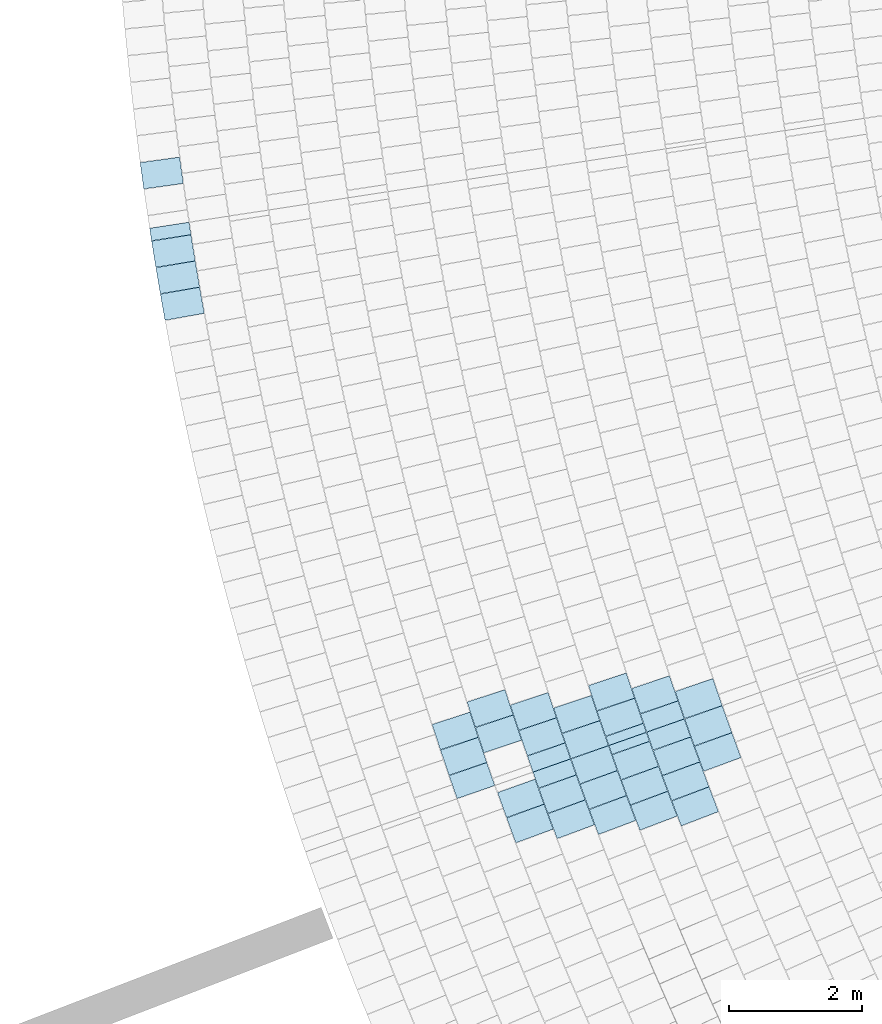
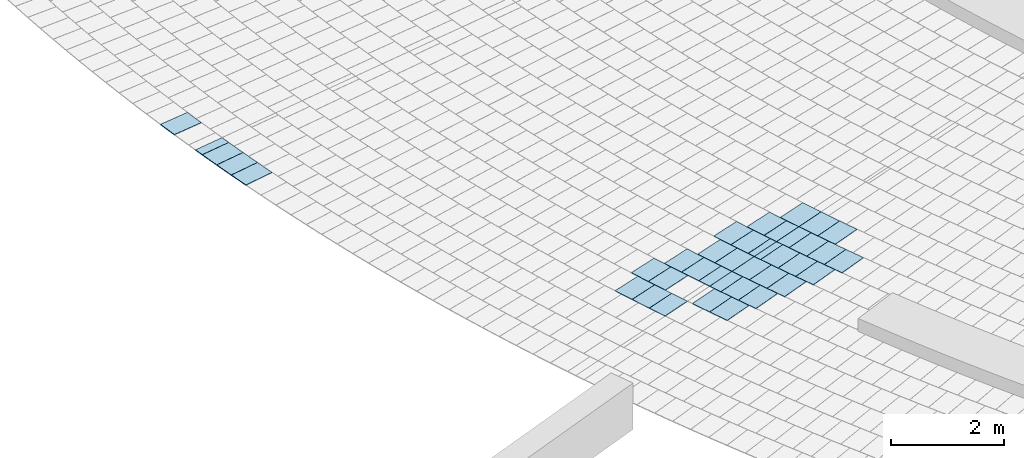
# One storey, part 70 of 438: 39 slabs.
"""IFC2X3 building model written with IfcOpenShell, lengths in millimetres."""

from ifc_helpers import new_model, entity, si_unit, converted_unit, derived_unit, direction, frame, frame_2d, origin, place, context, subcontext, project, spatial, polyline, rectangle, outline, extrude, material, layer, layer_set, layer_usage, type_object, element, save


model = new_model("IFC2X3")

# Units and contexts
model_context = context("Model", 3, precision=0.01, world=origin(), true_north=direction((6.123031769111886e-17, 1.0)))
body_context = subcontext(model_context, "Body", "Model", "MODEL_VIEW")
ifc_project = project(units=[si_unit("LENGTHUNIT", "METRE", prefix="MILLI"), si_unit("AREAUNIT", "SQUARE_METRE"), si_unit("VOLUMEUNIT", "CUBIC_METRE"), converted_unit("PLANEANGLEUNIT", "DEGREE", entity("IfcRatioMeasure", 0.017453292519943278), si_unit("PLANEANGLEUNIT", "RADIAN"), dimensions=[0, 0, 0, 0, 0, 0, 0]), si_unit("MASSUNIT", "GRAM", prefix="KILO"), derived_unit("MASSDENSITYUNIT", [(si_unit("MASSUNIT", "GRAM", prefix="KILO"), 1), (si_unit("LENGTHUNIT", "METRE"), -3)]), derived_unit("MOMENTOFINERTIAUNIT", [(si_unit("LENGTHUNIT", "METRE"), 4)]), si_unit("TIMEUNIT", "SECOND"), si_unit("FREQUENCYUNIT", "HERTZ"), si_unit("THERMODYNAMICTEMPERATUREUNIT", "DEGREE_CELSIUS"), derived_unit("THERMALTRANSMITTANCEUNIT", [(si_unit("MASSUNIT", "GRAM", prefix="KILO"), 1), (si_unit("THERMODYNAMICTEMPERATUREUNIT", "KELVIN"), -1), (si_unit("TIMEUNIT", "SECOND"), -3)]), derived_unit("THERMALCONDUCTANCEUNIT", [(si_unit("MASSUNIT", "GRAM", prefix="KILO"), 1), (si_unit("LENGTHUNIT", "METRE"), 1), (si_unit("THERMODYNAMICTEMPERATUREUNIT", "KELVIN"), -1), (si_unit("TIMEUNIT", "SECOND"), -3)]), derived_unit("VOLUMETRICFLOWRATEUNIT", [(si_unit("LENGTHUNIT", "METRE"), 3), (si_unit("TIMEUNIT", "SECOND"), -1)]), derived_unit("MASSFLOWRATEUNIT", [(si_unit("MASSUNIT", "GRAM", prefix="KILO"), 1), (si_unit("TIMEUNIT", "SECOND"), -1)]), derived_unit("ROTATIONALFREQUENCYUNIT", [(si_unit("TIMEUNIT", "SECOND"), -1)]), si_unit("ELECTRICCURRENTUNIT", "AMPERE"), si_unit("ELECTRICVOLTAGEUNIT", "VOLT"), si_unit("POWERUNIT", "WATT"), converted_unit("FORCEUNIT", "KIP", entity("IfcRatioMeasure", 2.088543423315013e-05), si_unit("FORCEUNIT", "NEWTON"), dimensions=[1, 1, -2, 0, 0, 0, 0]), si_unit("ILLUMINANCEUNIT", "LUX"), si_unit("LUMINOUSFLUXUNIT", "LUMEN"), si_unit("LUMINOUSINTENSITYUNIT", "CANDELA"), derived_unit("USERDEFINED", [(si_unit("MASSUNIT", "GRAM", prefix="KILO"), -1), (si_unit("LENGTHUNIT", "METRE"), -2), (si_unit("TIMEUNIT", "SECOND"), 3), (si_unit("LUMINOUSFLUXUNIT", "LUMEN"), 1)]), derived_unit("USERDEFINED", [(si_unit("MASSUNIT", "GRAM", prefix="KILO"), 1), (si_unit("LENGTHUNIT", "METRE"), 3), (si_unit("TIMEUNIT", "SECOND"), -3), (si_unit("ELECTRICCURRENTUNIT", "AMPERE"), -2)]), derived_unit("USERDEFINED", [(si_unit("LENGTHUNIT", "METRE"), 2), (si_unit("TIMEUNIT", "SECOND"), -2)]), derived_unit("SOUNDPOWERUNIT", [(si_unit("MASSUNIT", "GRAM", prefix="KILO"), 1), (si_unit("LENGTHUNIT", "METRE"), 2), (si_unit("TIMEUNIT", "SECOND"), -3)]), derived_unit("SOUNDPRESSUREUNIT", [(si_unit("MASSUNIT", "GRAM", prefix="KILO"), 1), (si_unit("LENGTHUNIT", "METRE"), -1), (si_unit("TIMEUNIT", "SECOND"), -2)]), derived_unit("LINEARVELOCITYUNIT", [(si_unit("LENGTHUNIT", "METRE"), 1), (si_unit("TIMEUNIT", "SECOND"), -1)]), si_unit("PRESSUREUNIT", "PASCAL"), derived_unit("USERDEFINED", [(si_unit("LENGTHUNIT", "METRE"), -2), (si_unit("MASSUNIT", "GRAM", prefix="KILO"), 1), (si_unit("TIMEUNIT", "SECOND"), -2)]), derived_unit("LINEARFORCEUNIT", [(si_unit("MASSUNIT", "GRAM", prefix="KILO"), 1), (si_unit("LENGTHUNIT", "METRE"), 1), (si_unit("TIMEUNIT", "SECOND"), -2), (si_unit("LENGTHUNIT", "METRE"), -1)]), derived_unit("PLANARFORCEUNIT", [(si_unit("MASSUNIT", "GRAM", prefix="KILO"), 1), (si_unit("LENGTHUNIT", "METRE"), 1), (si_unit("TIMEUNIT", "SECOND"), -2), (si_unit("LENGTHUNIT", "METRE"), -2)]), derived_unit("SPECIFICHEATCAPACITYUNIT", [(si_unit("LENGTHUNIT", "METRE"), 2), (si_unit("TIMEUNIT", "SECOND"), -2), (si_unit("THERMODYNAMICTEMPERATUREUNIT", "KELVIN"), -1)]), derived_unit("VAPORPERMEABILITYUNIT", [(si_unit("TIMEUNIT", "SECOND"), 1), (si_unit("LENGTHUNIT", "METRE"), -1)]), derived_unit("DYNAMICVISCOSITYUNIT", [(si_unit("MASSUNIT", "GRAM", prefix="KILO"), 1), (si_unit("LENGTHUNIT", "METRE"), -1), (si_unit("TIMEUNIT", "SECOND"), -1)]), derived_unit("THERMALEXPANSIONCOEFFICIENTUNIT", [(si_unit("THERMODYNAMICTEMPERATUREUNIT", "KELVIN"), -1)])], contexts=[model_context])

# Site, building, storey
site_placement = place(None, frame((0.0, 0.0, 0.0), z_axis=(0.0, 0.0, 1.0), x_axis=(0.8191520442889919, 0.5735764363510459, 0.0)))
site = spatial("IfcSite", under=ifc_project, at=site_placement, Name="Default", CompositionType="ELEMENT")
building_placement = place(site_placement, origin())
building = spatial("IfcBuilding", under=site, at=building_placement, CompositionType="ELEMENT")
storey_placement = place(building_placement, origin())
storey = spatial("IfcBuildingStorey", under=building, at=storey_placement, Name="PLAN", CompositionType="ELEMENT", Elevation=0.0)

# Slabs
ifc_material = material(Name="Paint-01")
ifc_layer = layer(ifc_material, 20.00000000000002)
ifc_layer_set = layer_set([ifc_layer], Name="Floor:Slab-179:1000")
ifc_layer_usage = layer_usage(ifc_layer_set, "AXIS3", "POSITIVE", 0.0)
slab_type = type_object("IfcSlabType", Name="Floor:Slab-179:1000", PredefinedType="FLOOR", material=ifc_layer_set)
slab_1_placement = place(storey_placement, origin())
element("IfcSlab", 1, at=slab_1_placement, inside=storey, type_object=slab_type, material=ifc_layer_usage, Name="Floor:Slab-179:1000", ObjectType="Floor:Slab-179:1000", PredefinedType="FLOOR", context=body_context, shape_type="SweptSolid", body=[
    extrude(outline(polyline([(-215.73772601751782, -299.9999986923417), (215.73772282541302, -299.99999869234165), (215.73772601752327, 299.99999869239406), (-215.73772282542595, 299.9999986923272), (-215.73772601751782, -299.9999986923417)])), frame((-84760.5705008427, -55701.251206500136, 520.0), z_axis=(0.0, 0.0, -1.0), x_axis=(-0.26534698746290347, -0.9641529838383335, 0.0)), (0.0, 0.0, 1.0), 19.99999999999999),
])
slab_2_placement = place(storey_placement, origin())
element("IfcSlab", 2, at=slab_2_placement, inside=storey, type_object=slab_type, material=ifc_layer_usage, Name="Floor:Slab-179:1000", ObjectType="Floor:Slab-179:1000", PredefinedType="FLOOR", context=body_context, shape_type="SweptSolid", body=[
    extrude(outline(polyline([(-200.0000045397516, -299.9999986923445), (200.00000134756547, -299.99999869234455), (200.00000453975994, 299.9999986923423), (-200.00000134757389, 299.99999869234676), (-200.0000045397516, -299.9999986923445)])), frame((-84869.88322916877, -56105.071580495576, 520.0), z_axis=(0.0, 0.0, -1.0), x_axis=(-0.25691555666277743, -0.966433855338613, 0.0)), (0.0, 0.0, 1.0), 20.000000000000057),
])
slab_3_placement = place(storey_placement, origin())
element("IfcSlab", 3, at=slab_3_placement, inside=storey, type_object=slab_type, material=ifc_layer_usage, Name="Floor:Slab-179:1000", ObjectType="Floor:Slab-179:1000", PredefinedType="FLOOR", context=body_context, shape_type="SweptSolid", body=[
    extrude(outline(polyline([(-143.68801425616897, -299.99999869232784), (143.68801266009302, -299.9999986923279), (143.6880158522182, 299.9999986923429), (-143.68801425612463, 299.99999869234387), (-143.68801425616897, -299.99999869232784)])), frame((-85323.64722536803, -55467.40031500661, 520.0), z_axis=(0.0, 0.0, -1.0), x_axis=(-0.26840341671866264, -0.9633066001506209, 0.0)), (0.0, 0.0, 1.0), 19.99999999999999),
])
slab_4_placement = place(storey_placement, origin())
element("IfcSlab", 4, at=slab_4_placement, inside=storey, type_object=slab_type, material=ifc_layer_usage, Name="Floor:Slab-179:1000", ObjectType="Floor:Slab-179:1000", PredefinedType="FLOOR", context=body_context, shape_type="SweptSolid", body=[
    extrude(outline(polyline([(-200.00000453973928, -299.99999869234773), (200.000001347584, -299.99999869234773), (200.00000453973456, 299.9999986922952), (-200.00000134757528, 299.99999869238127), (-200.00000453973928, -299.99999869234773)])), frame((-85517.9456801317, -56190.60224366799, 520.0), z_axis=(0.0, 0.0, -1.0), x_axis=(-0.2517557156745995, -0.967790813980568, 0.0)), (0.0, 0.0, 1.0), 20.000000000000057),
])
slab_5_placement = place(storey_placement, origin())
element("IfcSlab", 5, at=slab_5_placement, inside=storey, type_object=slab_type, material=ifc_layer_usage, Name="Floor:Slab-179:1000", ObjectType="Floor:Slab-179:1000", PredefinedType="FLOOR", context=body_context, shape_type="SweptSolid", body=[
    extrude(rectangle(XDim=399.9996599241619, YDim=599.9994784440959, at=frame_2d((-4.192202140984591e-12, 1.1368683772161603e-12), x_axis=(1.0, 0.0))), frame((-85414.76286067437, -55801.87630573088, 520.0), z_axis=(0.0, 0.0, -1.0), x_axis=(-0.2588190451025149, -0.9659258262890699, 0.0)), (0.0, 0.0, 1.0), 20.000000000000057),
])
slab_6_placement = place(storey_placement, origin())
element("IfcSlab", 6, at=slab_6_placement, inside=storey, type_object=slab_type, material=ifc_layer_usage, Name="Floor:Slab-179:1000", ObjectType="Floor:Slab-179:1000", PredefinedType="FLOOR", context=body_context, shape_type="SweptSolid", body=[
    extrude(outline(polyline([(-200.00000453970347, -299.9999986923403), (200.00000134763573, -299.9999986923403), (200.00000453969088, 299.9999986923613), (-200.00000134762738, 299.9999986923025), (-200.00000453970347, -299.9999986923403)])), frame((-85617.6178146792, -56580.65110365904, 520.0), z_axis=(0.0, 0.0, -1.0), x_axis=(-0.2434034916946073, -0.9699251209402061, 0.0)), (0.0, 0.0, 1.0), 19.99999999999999),
])
slab_7_placement = place(storey_placement, origin())
element("IfcSlab", 7, at=slab_7_placement, inside=storey, type_object=slab_type, material=ifc_layer_usage, Name="Floor:Slab-179:1000", ObjectType="Floor:Slab-179:1000", PredefinedType="FLOOR", context=body_context, shape_type="SweptSolid", body=[
    extrude(outline(polyline([(-300.0, -215.7377244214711), (299.999997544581, -215.73772442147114), (300.0, 215.737724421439), (-299.9999975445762, 215.7377244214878), (-300.0, -215.7377244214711)])), frame((-84643.16051999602, -55282.91227801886, 520.0), z_axis=(0.0, 0.0, -1.0), x_axis=(0.9614213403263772, -0.2750799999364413, 0.0)), (0.0, 0.0, 1.0), 20.000000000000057),
])
slab_8_placement = place(storey_placement, origin())
element("IfcSlab", 8, at=slab_8_placement, inside=storey, type_object=slab_type, material=ifc_layer_usage, Name="Floor:Slab-179:1000", ObjectType="Floor:Slab-179:1000", PredefinedType="FLOOR", context=body_context, shape_type="SweptSolid", body=[
    extrude(outline(polyline([(-300.0, -200.00000294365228), (299.99999762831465, -200.00000294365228), (300.0, 200.00000294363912), (-299.9999976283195, 200.00000294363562), (-300.0, -200.00000294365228)])), frame((-85149.8235953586, -54856.890883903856, 520.0), z_axis=(0.0, 0.0, -1.0), x_axis=(0.9599081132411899, -0.28031484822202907, 0.0)), (0.0, 0.0, 1.0), 19.999999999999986),
])
slab_9_placement = place(storey_placement, origin())
element("IfcSlab", 9, at=slab_9_placement, inside=storey, type_object=slab_type, material=ifc_layer_usage, Name="Floor:Slab-179:1000", ObjectType="Floor:Slab-179:1000", PredefinedType="FLOOR", context=body_context, shape_type="SweptSolid", body=[
    extrude(outline(polyline([(-300.0, -143.68801425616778), (299.99999792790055, -143.68801425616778), (300.0, 143.68801266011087), (-299.99999792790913, 143.68801585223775), (-300.0, -143.68801425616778)])), frame((-85245.68818392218, -55189.62749170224, 520.0), z_axis=(0.0, 0.0, -1.0), x_axis=(0.962288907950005, -0.27202951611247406, 0.0)), (0.0, 0.0, 1.0), 19.99999999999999),
])
slab_10_placement = place(storey_placement, origin())
element("IfcSlab", 10, at=slab_10_placement, inside=storey, type_object=slab_type, material=ifc_layer_usage, Name="Floor:Slab-179:1000", ObjectType="Floor:Slab-179:1000", PredefinedType="FLOOR", context=body_context, shape_type="SweptSolid", body=[
    extrude(outline(polyline([(-300.0, -200.00000294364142), (299.9999976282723, -200.0000029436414), (300.0, 200.00000294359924), (-299.9999976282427, 200.00000294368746), (-300.0, -200.00000294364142)])), frame((-86165.10814222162, -56277.84806828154, 520.0), z_axis=(0.0, 0.0, -1.0), x_axis=(0.9690940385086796, -0.24669159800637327, 0.0)), (0.0, 0.0, 1.0), 20.000000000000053),
])
slab_11_placement = place(storey_placement, origin())
element("IfcSlab", 11, at=slab_11_placement, inside=storey, type_object=slab_type, material=ifc_layer_usage, Name="Floor:Slab-179:1000", ObjectType="Floor:Slab-179:1000", PredefinedType="FLOOR", context=body_context, shape_type="SweptSolid", body=[
    extrude(outline(polyline([(-300.0, -200.00000294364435), (299.99999762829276, -200.00000294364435), (300.0, 200.00000294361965), (-299.99999762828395, 200.00000294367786), (-300.0, -200.00000294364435)])), frame((-86064.14367254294, -55888.16601803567, 520.0), z_axis=(0.0, 0.0, -1.0), x_axis=(0.9669597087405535, -0.2549292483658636, 0.0)), (0.0, 0.0, 1.0), 20.000000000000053),
])
slab_12_placement = place(storey_placement, origin())
element("IfcSlab", 12, at=slab_12_placement, inside=storey, type_object=slab_type, material=ifc_layer_usage, Name="Floor:Slab-179:1000", ObjectType="Floor:Slab-179:1000", PredefinedType="FLOOR", context=body_context, shape_type="SweptSolid", body=[
    extrude(outline(polyline([(-299.9999986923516, -71.27713909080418), (299.999998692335, -71.27713909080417), (299.99999869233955, 71.27714068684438), (-299.9999986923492, 71.2771374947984), (-299.9999986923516, -71.27713909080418)])), frame((-85887.21392522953, -55235.343225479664, 520.0), z_axis=(0.0, 0.0, -1.0), x_axis=(0.962481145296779, -0.2713485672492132, 0.0)), (0.0, 0.0, 1.0), 19.99999999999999),
])
slab_13_placement = place(storey_placement, origin())
element("IfcSlab", 13, at=slab_13_placement, inside=storey, type_object=slab_type, material=ifc_layer_usage, Name="Floor:Slab-179:1000", ObjectType="Floor:Slab-179:1000", PredefinedType="FLOOR", context=body_context, shape_type="SweptSolid", body=[
    extrude(outline(polyline([(-300.0, -200.0000029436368), (299.999997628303, -200.0000029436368), (300.0, 200.0000029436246), (-299.9999976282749, 200.000002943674), (-300.0, -200.0000029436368)])), frame((-85959.86682827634, -55499.35724219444, 520.0), z_axis=(0.0, 0.0, -1.0), x_axis=(0.9647553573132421, -0.26314843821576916, 0.0)), (0.0, 0.0, 1.0), 20.000000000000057),
])
slab_14_placement = place(storey_placement, origin())
element("IfcSlab", 14, at=slab_14_placement, inside=storey, type_object=slab_type, material=ifc_layer_usage, Name="Floor:Slab-179:1000", ObjectType="Floor:Slab-179:1000", PredefinedType="FLOOR", context=body_context, shape_type="SweptSolid", body=[
    extrude(outline(polyline([(-300.0, -200.00000294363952), (299.9999976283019, -200.00000294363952), (300.0, 200.00000294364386), (-299.9999976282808, 200.00000294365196), (-300.0, -200.00000294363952)])), frame((-86711.72723811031, -55973.79170931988, 520.0), z_axis=(0.0, 0.0, -1.0), x_axis=(0.9682657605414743, -0.24992282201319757, 0.0)), (0.0, 0.0, 1.0), 20.000000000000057),
])
slab_15_placement = place(storey_placement, origin())
element("IfcSlab", 15, at=slab_15_placement, inside=storey, type_object=slab_type, material=ifc_layer_usage, Name="Floor:Slab-179:1000", ObjectType="Floor:Slab-179:1000", PredefinedType="FLOOR", context=body_context, shape_type="SweptSolid", body=[
    extrude(rectangle(XDim=599.9998066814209, YDim=399.9998787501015, at=frame_2d((-9.492850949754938e-12, -1.9326762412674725e-12), x_axis=(1.0, 0.0))), frame((-86609.2768062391, -55584.28460570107, 520.0), z_axis=(0.0, 0.0, -1.0), x_axis=(0.9659258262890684, -0.25881904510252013, 0.0)), (0.0, 0.0, 1.0), 20.000000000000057),
])
slab_16_placement = place(storey_placement, origin())
element("IfcSlab", 16, at=slab_16_placement, inside=storey, type_object=slab_type, material=ifc_layer_usage, Name="Floor:Slab-179:1000", ObjectType="Floor:Slab-179:1000", PredefinedType="FLOOR", context=body_context, shape_type="SweptSolid", body=[
    extrude(outline(polyline([(-299.9999986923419, -199.58975976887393), (299.99999869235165, -199.58975976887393), (299.9999986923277, 199.58976136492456), (-299.9999986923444, 199.5897581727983), (-299.9999986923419, -199.58975976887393)])), frame((-86504.10020765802, -55196.425139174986, 520.0), z_axis=(0.0, 0.0, -1.0), x_axis=(0.9639297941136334, -0.26615663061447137, 0.0)), (0.0, 0.0, 1.0), 20.000000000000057),
])
slab_17_placement = place(storey_placement, origin())
element("IfcSlab", 17, at=slab_17_placement, inside=storey, type_object=slab_type, material=ifc_layer_usage, Name="Floor:Slab-179:1000", ObjectType="Floor:Slab-179:1000", PredefinedType="FLOOR", context=body_context, shape_type="SweptSolid", body=[
    extrude(outline(polyline([(-300.0, -200.0000029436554), (299.9999976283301, -200.0000029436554), (300.0, 200.00000294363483), (-299.9999976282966, 200.00000294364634), (-300.0, -200.0000029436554)])), frame((-87154.37798046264, -55280.93171024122, 520.0), z_axis=(0.0, 0.0, -1.0), x_axis=(0.9653151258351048, -0.26108754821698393, 0.0)), (0.0, 0.0, 1.0), 20.000000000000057),
])
slab_18_placement = place(storey_placement, origin())
element("IfcSlab", 18, at=slab_18_placement, inside=storey, type_object=slab_type, material=ifc_layer_usage, Name="Floor:Slab-179:1000", ObjectType="Floor:Slab-179:1000", PredefinedType="FLOOR", context=body_context, shape_type="SweptSolid", body=[
    extrude(outline(polyline([(-299.99999869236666, -127.54038940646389), (299.9999986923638, -127.54038940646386), (299.9999986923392, 127.5403910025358), (-299.9999986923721, 127.54038781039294), (-299.99999869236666, -127.54038940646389)])), frame((-87067.1812655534, -54962.63271354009, 520.0), z_axis=(0.0, 0.0, -1.0), x_axis=(0.9631159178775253, -0.2690868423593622, 0.0)), (0.0, 0.0, 1.0), 20.000000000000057),
])
slab_19_placement = place(storey_placement, origin())
element("IfcSlab", 19, at=slab_19_placement, inside=storey, type_object=slab_type, material=ifc_layer_usage, Name="Floor:Slab-179:1000", ObjectType="Floor:Slab-179:1000", PredefinedType="FLOOR", context=body_context, shape_type="SweptSolid", body=[
    extrude(outline(polyline([(-300.0, -200.0000029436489), (299.99999762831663, -200.0000029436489), (300.0, 200.0000029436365), (-299.9999976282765, 200.00000294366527), (-300.0, -200.0000029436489)])), frame((-87257.84937890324, -55669.889501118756, 520.0), z_axis=(0.0, 0.0, -1.0), x_axis=(0.9674478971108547, -0.2530702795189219, 0.0)), (0.0, 0.0, 1.0), 20.000000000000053),
])
slab_20_placement = place(storey_placement, origin())
element("IfcSlab", 20, at=slab_20_placement, inside=storey, type_object=slab_type, material=ifc_layer_usage, Name="Floor:Slab-179:1000", ObjectType="Floor:Slab-179:1000", PredefinedType="FLOOR", context=body_context, shape_type="SweptSolid", body=[
    extrude(outline(polyline([(-300.0, -200.0000029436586), (299.9999976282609, -200.0000029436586), (300.0, 200.00000294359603), (-299.9999976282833, 200.00000294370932), (-300.0, -200.0000029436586)])), frame((-87803.49356343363, -55366.13725940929, 520.0), z_axis=(0.0, 0.0, -1.0), x_axis=(0.9666404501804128, -0.2561371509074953, 0.0)), (0.0, 0.0, 1.0), 19.99999999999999),
])
slab_21_placement = place(storey_placement, origin())
element("IfcSlab", 21, at=slab_21_placement, inside=storey, type_object=slab_type, material=ifc_layer_usage, Name="Floor:Slab-179:1000", ObjectType="Floor:Slab-179:1000", PredefinedType="FLOOR", context=body_context, shape_type="SweptSolid", body=[
    extrude(outline(polyline([(-300.0, -200.00000294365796), (299.99999762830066, -200.00000294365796), (300.0, 200.00000294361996), (-299.9999976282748, 200.00000294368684), (-300.0, -200.00000294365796)])), frame((-87698.81712979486, -54977.53388871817, 520.0), z_axis=(0.0, 0.0, -1.0), x_axis=(0.9645094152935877, -0.2640484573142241, 0.0)), (0.0, 0.0, 1.0), 20.000000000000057),
])
slab_22_placement = place(storey_placement, origin())
element("IfcSlab", 22, at=slab_22_placement, inside=storey, type_object=slab_type, material=ifc_layer_usage, Name="Floor:Slab-179:1000", ObjectType="Floor:Slab-179:1000", PredefinedType="FLOOR", context=body_context, shape_type="SweptSolid", body=[
    extrude(outline(polyline([(-200.00000453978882, -299.9999986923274), (200.00000134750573, -299.9999986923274), (200.00000453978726, 299.9999986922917), (-200.00000134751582, 299.9999986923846), (-200.00000453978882, -299.9999986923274)])), frame((-85660.05669990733, -54448.18539415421, 520.0), z_axis=(0.0, 0.0, -1.0), x_axis=(-0.28536960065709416, -0.9584175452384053, 0.0)), (0.0, 0.0, 1.0), 20.000000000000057),
])
slab_23_placement = place(storey_placement, origin())
element("IfcSlab", 23, at=slab_23_placement, inside=storey, type_object=slab_type, material=ifc_layer_usage, Name="Floor:Slab-179:1000", ObjectType="Floor:Slab-179:1000", PredefinedType="FLOOR", context=body_context, shape_type="SweptSolid", body=[
    extrude(outline(polyline([(-200.00000453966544, -299.9999986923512), (200.0000013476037, -299.99999869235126), (200.00000453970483, 299.9999986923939), (-200.00000134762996, 299.9999986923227), (-200.00000453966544, -299.9999986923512)])), frame((-85773.28942939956, -54834.48097190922, 520.0), z_axis=(0.0, 0.0, -1.0), x_axis=(-0.2772035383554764, -0.9608112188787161, 0.0)), (0.0, 0.0, 1.0), 20.000000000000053),
])
slab_24_placement = place(storey_placement, origin())
element("IfcSlab", 24, at=slab_24_placement, inside=storey, type_object=slab_type, material=ifc_layer_usage, Name="Floor:Slab-179:1000", ObjectType="Floor:Slab-179:1000", PredefinedType="FLOOR", context=body_context, shape_type="SweptSolid", body=[
    extrude(outline(polyline([(-200.00000453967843, -299.9999986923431), (200.0000013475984, -299.9999986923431), (200.0000045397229, 299.99999869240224), (-200.0000013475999, 299.99999869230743), (-200.00000453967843, -299.9999986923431)])), frame((-86283.78746599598, -54423.81017375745, 520.0), z_axis=(0.0, 0.0, -1.0), x_axis=(-0.28227476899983, -0.959333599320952, 0.0)), (0.0, 0.0, 1.0), 20.000000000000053),
])
slab_25_placement = place(storey_placement, origin())
element("IfcSlab", 25, at=slab_25_placement, inside=storey, type_object=slab_type, material=ifc_layer_usage, Name="Floor:Slab-179:1000", ObjectType="Floor:Slab-179:1000", PredefinedType="FLOOR", context=body_context, shape_type="SweptSolid", body=[
    extrude(outline(polyline([(-199.58976136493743, -299.99999869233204), (199.58975976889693, -299.99999869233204), (199.58975976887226, 299.99999869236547), (-199.58975817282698, 299.9999986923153), (-199.58976136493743, -299.99999869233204)])), frame((-86395.67222946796, -54810.037558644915, 520.0), z_axis=(0.0, 0.0, -1.0), x_axis=(-0.2742050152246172, -0.9616712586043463, 0.0)), (0.0, 0.0, 1.0), 19.99999999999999),
])
slab_26_placement = place(storey_placement, origin())
element("IfcSlab", 26, at=slab_26_placement, inside=storey, type_object=slab_type, material=ifc_layer_usage, Name="Floor:Slab-179:1000", ObjectType="Floor:Slab-179:1000", PredefinedType="FLOOR", context=body_context, shape_type="SweptSolid", body=[
    extrude(outline(polyline([(-299.9999983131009, -71.2771390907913), (299.9999990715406, -71.27713909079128), (299.9999983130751, 71.27714068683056), (-299.9999990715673, 71.27713749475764), (-299.9999983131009, -71.2771390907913)])), frame((-85848.6021558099, -55097.748589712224, 520.0), z_axis=(0.0, 0.0, -1.0), x_axis=(0.9631353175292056, -0.2690173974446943, 0.0)), (0.0, 0.0, 1.0), 19.999999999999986),
])
slab_27_placement = place(storey_placement, origin())
element("IfcSlab", 27, at=slab_27_placement, inside=storey, type_object=slab_type, material=ifc_layer_usage, Name="Floor:Slab-179:1000", ObjectType="Floor:Slab-179:1000", PredefinedType="FLOOR", context=body_context, shape_type="SweptSolid", body=[
    extrude(outline(polyline([(-200.00000453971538, -299.99999869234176), (200.00000134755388, -299.9999986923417), (200.0000045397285, 299.9999986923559), (-200.00000134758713, 299.9999986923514), (-200.00000453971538, -299.99999869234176)])), frame((-86907.0446129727, -54399.549035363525, 520.0), z_axis=(0.0, 0.0, -1.0), x_axis=(-0.279254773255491, -0.9602170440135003, 0.0)), (0.0, 0.0, 1.0), 20.000000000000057),
])
slab_28_placement = place(storey_placement, origin())
element("IfcSlab", 28, at=slab_28_placement, inside=storey, type_object=slab_type, material=ifc_layer_usage, Name="Floor:Slab-179:1000", ObjectType="Floor:Slab-179:1000", PredefinedType="FLOOR", context=body_context, shape_type="SweptSolid", body=[
    extrude(outline(polyline([(-299.9999980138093, -127.54038940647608), (299.9999993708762, -127.54038940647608), (299.999998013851, 127.54039100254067), (-299.9999993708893, 127.54038781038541), (-299.9999980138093, -127.54038940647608)])), frame((-86998.17971654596, -54716.74284250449, 520.0), z_axis=(0.0, 0.0, -1.0), x_axis=(0.9625007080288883, -0.27127916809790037, 0.0)), (0.0, 0.0, 1.0), 19.999999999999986),
])
slab_29_placement = place(storey_placement, origin())
element("IfcSlab", 29, at=slab_29_placement, inside=storey, type_object=slab_type, material=ifc_layer_usage, Name="Floor:Slab-179:1000", ObjectType="Floor:Slab-179:1000", PredefinedType="FLOOR", context=body_context, shape_type="SweptSolid", body=[
    extrude(outline(polyline([(-200.00000453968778, -299.99999869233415), (200.00000134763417, -299.9999986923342), (200.0000045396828, 299.999998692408), (-200.00000134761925, 299.99999869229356), (-200.00000453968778, -299.99999869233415)])), frame((-86793.04650306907, -54013.545247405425, 520.0), z_axis=(0.0, 0.0, -1.0), x_axis=(-0.2872111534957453, -0.9578672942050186, 0.0)), (0.0, 0.0, 1.0), 20.000000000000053),
])
slab_30_placement = place(storey_placement, origin())
element("IfcSlab", 30, at=slab_30_placement, inside=storey, type_object=slab_type, material=ifc_layer_usage, Name="Floor:Slab-179:1000", ObjectType="Floor:Slab-179:1000", PredefinedType="FLOOR", context=body_context, shape_type="SweptSolid", body=[
    extrude(outline(polyline([(-200.00000453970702, -299.99999869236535), (200.00000134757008, -299.9999986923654), (200.00000453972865, 299.9999986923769), (-200.00000134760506, 299.99999869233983), (-200.00000453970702, -299.99999869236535)])), frame((-87301.11472616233, -53603.67721674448, 520.0), z_axis=(0.0, 0.0, -1.0), x_axis=(-0.2920178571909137, -0.9564128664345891, 0.0)), (0.0, 0.0, 1.0), 20.000000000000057),
])
slab_31_placement = place(storey_placement, origin())
element("IfcSlab", 31, at=slab_31_placement, inside=storey, type_object=slab_type, material=ifc_layer_usage, Name="Floor:Slab-179:1000", ObjectType="Floor:Slab-179:1000", PredefinedType="FLOOR", context=body_context, shape_type="SweptSolid", body=[
    extrude(outline(polyline([(-200.0000045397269, -299.9999986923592), (200.00000134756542, -299.99999869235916), (200.00000453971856, 299.9999986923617), (-200.00000134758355, 299.9999986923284), (-200.0000045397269, -299.9999986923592)])), frame((-87417.06082689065, -53989.06823531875, 520.0), z_axis=(0.0, 0.0, -1.0), x_axis=(-0.284171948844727, -0.9587733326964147, 0.0)), (0.0, 0.0, 1.0), 19.999999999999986),
])
slab_32_placement = place(storey_placement, origin())
element("IfcSlab", 32, at=slab_32_placement, inside=storey, type_object=slab_type, material=ifc_layer_usage, Name="Floor:Slab-179:1000", ObjectType="Floor:Slab-179:1000", PredefinedType="FLOOR", context=body_context, shape_type="SweptSolid", body=[
    extrude(outline(polyline([(-200.00000453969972, -299.9999986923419), (200.00000134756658, -299.9999986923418), (200.00000453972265, 299.9999986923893), (-200.00000134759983, 299.9999986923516), (-200.00000453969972, -299.9999986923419)])), frame((-88040.60647517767, -53964.7058915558, 520.0), z_axis=(0.0, 0.0, -1.0), x_axis=(-0.28120439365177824, -0.9596478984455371, 0.0)), (0.0, 0.0, 1.0), 19.999999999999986),
])
slab_33_placement = place(storey_placement, origin())
element("IfcSlab", 33, at=slab_33_placement, inside=storey, type_object=slab_type, material=ifc_layer_usage, Name="Floor:Slab-179:1000", ObjectType="Floor:Slab-179:1000", PredefinedType="FLOOR", context=body_context, shape_type="SweptSolid", body=[
    extrude(outline(polyline([(-200.00000453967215, -299.9999986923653), (200.00000134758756, -299.9999986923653), (200.00000453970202, 299.9999986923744), (-200.00000134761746, 299.9999986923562), (-200.00000453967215, -299.9999986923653)])), frame((-87925.88112674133, -53578.981016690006, 520.0), z_axis=(0.0, 0.0, -1.0), x_axis=(-0.2889615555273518, -0.9573407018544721, 0.0)), (0.0, 0.0, 1.0), 20.000000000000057),
])
slab_34_placement = place(storey_placement, origin())
element("IfcSlab", 34, at=slab_34_placement, inside=storey, type_object=slab_type, material=ifc_layer_usage, Name="Floor:Slab-179:1000", ObjectType="Floor:Slab-179:1000", PredefinedType="FLOOR", context=body_context, shape_type="SweptSolid", body=[
    extrude(outline(polyline([(-183.4419559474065, -299.9999986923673), (183.4419527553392, -299.9999986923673), (183.44195594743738, 299.9999986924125), (-183.441952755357, 299.9999986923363), (-183.4419559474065, -299.9999986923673)])), frame((-88147.67897149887, -54335.419541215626, 520.0), z_axis=(0.0, 0.0, -1.0), x_axis=(-0.2734288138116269, -0.9618922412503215, 0.0)), (0.0, 0.0, 1.0), 19.99999999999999),
])
slab_35_placement = place(storey_placement, origin())
element("IfcSlab", 35, at=slab_35_placement, inside=storey, type_object=slab_type, material=ifc_layer_usage, Name="Floor:Slab-179:1000", ObjectType="Floor:Slab-179:1000", PredefinedType="FLOOR", context=body_context, shape_type="SweptSolid", body=[
    extrude(outline(polyline([(-300.0, -200.0000029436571), (299.9999976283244, -200.00000294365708), (300.0, 200.00000294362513), (-299.9999976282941, 200.00000294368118), (-300.0, -200.0000029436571)])), frame((-87601.69485892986, -45953.45124804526, 520.0), z_axis=(0.0, 0.0, -1.0), x_axis=(0.9066944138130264, -0.42178814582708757, 0.0)), (0.0, 0.0, 1.0), 20.000000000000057),
])
slab_36_placement = place(storey_placement, origin())
element("IfcSlab", 36, at=slab_36_placement, inside=storey, type_object=slab_type, material=ifc_layer_usage, Name="Floor:Slab-179:1000", ObjectType="Floor:Slab-179:1000", PredefinedType="FLOOR", context=body_context, shape_type="SweptSolid", body=[
    extrude(outline(polyline([(-300.0, -200.0000029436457), (299.9999976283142, -200.0000029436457), (300.0, 200.00000294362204), (-299.99999762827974, 200.00000294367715), (-300.0, -200.0000029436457)])), frame((-87256.69839883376, -45226.549387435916, 520.0), z_axis=(0.0, 0.0, -1.0), x_axis=(0.9000783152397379, -0.435728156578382, 0.0)), (0.0, 0.0, 1.0), 20.000000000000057),
])
slab_37_placement = place(storey_placement, origin())
element("IfcSlab", 37, at=slab_37_placement, inside=storey, type_object=slab_type, material=ifc_layer_usage, Name="Floor:Slab-179:1000", ObjectType="Floor:Slab-179:1000", PredefinedType="FLOOR", context=body_context, shape_type="SweptSolid", body=[
    extrude(outline(polyline([(-299.99999919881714, -95.19024377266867), (299.99999818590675, -95.19024377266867), (299.9999991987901, 95.190243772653), (-299.9999981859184, 95.19024377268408), (-299.99999919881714, -95.19024377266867)])), frame((-87126.39934915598, -44959.098209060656, 520.0), z_axis=(0.0, 0.0, -1.0), x_axis=(0.8966898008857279, -0.442659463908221, 0.0)), (0.0, 0.0, 1.0), 19.99999999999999),
])
slab_38_placement = place(storey_placement, origin())
element("IfcSlab", 38, at=slab_38_placement, inside=storey, type_object=slab_type, material=ifc_layer_usage, Name="Floor:Slab-179:1000", ObjectType="Floor:Slab-179:1000", PredefinedType="FLOOR", context=body_context, shape_type="SweptSolid", body=[
    extrude(outline(polyline([(-300.0, -200.0000029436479), (299.9999976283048, -200.00000294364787), (300.0, 200.0000029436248), (-299.9999976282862, 200.00000294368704), (-300.0, -200.0000029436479)])), frame((-87430.59869633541, -45589.33487948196, 520.0), z_axis=(0.0, 0.0, -1.0), x_axis=(0.903413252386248, -0.4287709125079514, 0.0)), (0.0, 0.0, 1.0), 20.000000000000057),
])
slab_39_placement = place(storey_placement, origin())
element("IfcSlab", 39, at=slab_39_placement, inside=storey, type_object=slab_type, material=ifc_layer_usage, Name="Floor:Slab-179:1000", ObjectType="Floor:Slab-179:1000", PredefinedType="FLOOR", context=body_context, shape_type="SweptSolid", body=[
    extrude(outline(polyline([(-299.9999976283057, -200.00000294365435), (300.0, -200.00000294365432), (299.9999976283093, 200.00000294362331), (-300.0, 200.00000294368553), (-299.9999976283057, -200.00000294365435)])), frame((-86727.19052733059, -44163.776969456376, 520.0), z_axis=(0.0, 0.0, -1.0), x_axis=(0.8899237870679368, -0.45610925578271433, 0.0)), (0.0, 0.0, 1.0), 20.000000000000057),
])

save(model, "model.ifc")
